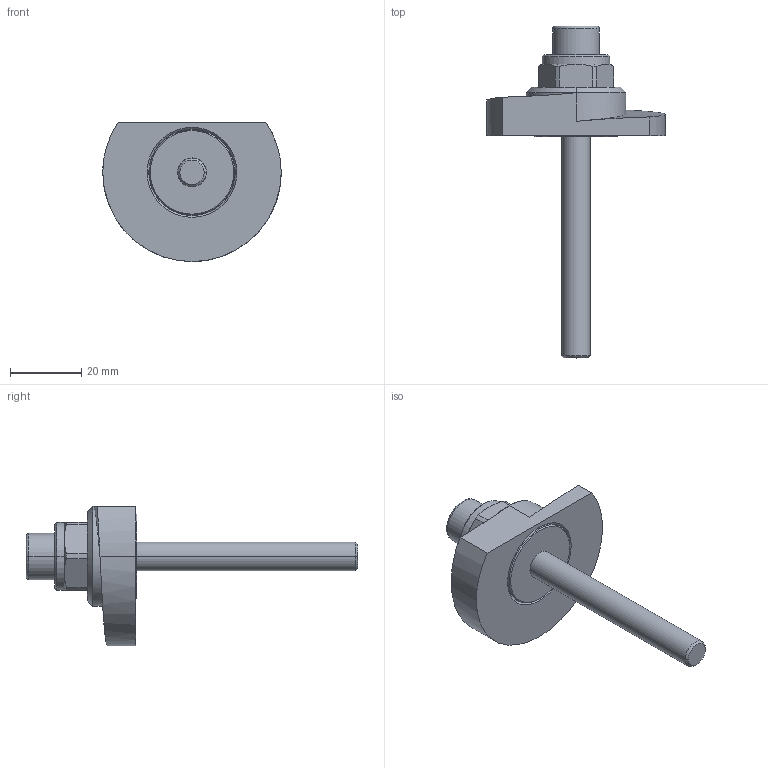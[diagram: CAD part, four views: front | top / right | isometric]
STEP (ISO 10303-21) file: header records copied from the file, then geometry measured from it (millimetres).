
FILE_DESCRIPTION (( 'STEP AP214' ), '1' );
FILE_NAME ('918.1-50-SKS-R-62.step', '2024-05-15T13:03:19', ( '' ), ( '' ), 'SwSTEP 2.0', 'SolidWorks 2022', '' );
FILE_SCHEMA (( 'AUTOMOTIVE_DESIGN' ));
Length unit declared in the file: millimetre
Products named in the file (1): 918.1-50-SKS-R-62
Bounding box: 50 x 93 x 39 mm (x, y, z)
Volume: 23208.2 mm3; surface area: 9886.4 mm2
Topology: 1 solids, 2 shells, 77 faces, 175 edges, 110 vertices
Faces by surface type: cylinder 25, plane 25, cone 22, bspline 3, torus 2
Entity records: 2547 total; most frequent: CARTESIAN_POINT 772, DIRECTION 379, ORIENTED_EDGE 350, EDGE_CURVE 175, AXIS2_PLACEMENT_3D 152, VERTEX_POINT 110, EDGE_LOOP 87, ADVANCED_FACE 77
